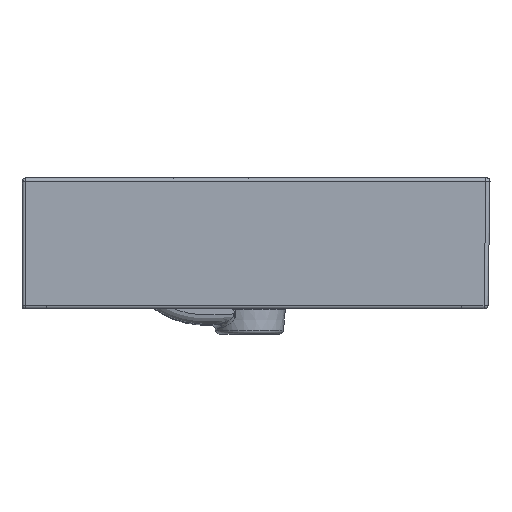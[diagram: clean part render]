
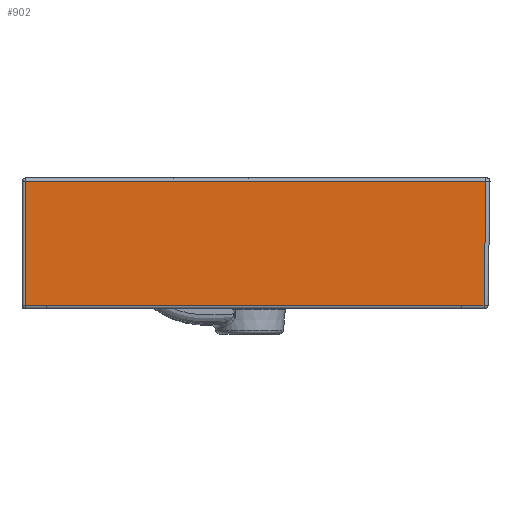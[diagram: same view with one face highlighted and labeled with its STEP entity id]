
A CAD part, left-side view. The second image highlights one B-rep face of the part: STEP entity #902.
In plain terms, the highlighted planar face has unit normal (-1, 0, -0.008).
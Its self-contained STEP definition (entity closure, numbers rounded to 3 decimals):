
#344=PLANE('',#6380);
#902=ADVANCED_FACE('',(#1418),#344,.F.);
#1418=FACE_OUTER_BOUND('',#1826,.T.);
#1826=EDGE_LOOP('',(#3108,#3109,#3110,#3111,#3112,#3113));
#3108=ORIENTED_EDGE('',*,*,#5322,.T.);
#3109=ORIENTED_EDGE('',*,*,#5323,.T.);
#3110=ORIENTED_EDGE('',*,*,#5324,.T.);
#3111=ORIENTED_EDGE('',*,*,#5325,.T.);
#3112=ORIENTED_EDGE('',*,*,#5326,.T.);
#3113=ORIENTED_EDGE('',*,*,#4880,.T.);
#4333=VERTEX_POINT('',#8331);
#4334=VERTEX_POINT('',#8333);
#4675=VERTEX_POINT('',#26658);
#4676=VERTEX_POINT('',#26660);
#4677=VERTEX_POINT('',#26662);
#4678=VERTEX_POINT('',#26664);
#4880=EDGE_CURVE('',#4334,#4333,#5791,.T.);
#5322=EDGE_CURVE('',#4333,#4675,#5945,.T.);
#5323=EDGE_CURVE('',#4675,#4676,#5946,.T.);
#5324=EDGE_CURVE('',#4676,#4677,#5947,.T.);
#5325=EDGE_CURVE('',#4677,#4678,#5948,.T.);
#5326=EDGE_CURVE('',#4678,#4334,#5949,.T.);
#5791=LINE('',#8332,#6002);
#5945=LINE('',#26657,#6158);
#5946=LINE('',#26659,#6159);
#5947=LINE('',#26661,#6160);
#5948=LINE('',#26663,#6161);
#5949=LINE('',#26665,#6162);
#6002=VECTOR('',#6803,1.);
#6158=VECTOR('',#7277,1.);
#6159=VECTOR('',#7278,1.);
#6160=VECTOR('',#7279,1.);
#6161=VECTOR('',#7280,1.);
#6162=VECTOR('',#7281,1.);
#6380=AXIS2_PLACEMENT_3D('',#26666,#7282,#7283);
#6803=DIRECTION('',(0.,1.,0.));
#7277=DIRECTION('',(0.008,0.,-1.));
#7278=DIRECTION('',(0.,-1.,0.));
#7279=DIRECTION('',(0.,-1.,0.));
#7280=DIRECTION('',(0.,-1.,0.));
#7281=DIRECTION('',(-0.008,-0.016,1.));
#7282=DIRECTION('',(1.,0.,0.008));
#7283=DIRECTION('',(0.,-1.,0.));
#8331=CARTESIAN_POINT('',(-399.92,-3.,-3.024));
#8332=CARTESIAN_POINT('',(-399.92,-230.416,-3.024));
#8333=CARTESIAN_POINT('',(-399.92,-460.832,-3.024));
#26657=CARTESIAN_POINT('',(-399.919,-3.,-3.079));
#26658=CARTESIAN_POINT('',(-398.943,-3.,-127.024));
#26659=CARTESIAN_POINT('',(-398.943,-24.,-127.024));
#26660=CARTESIAN_POINT('',(-398.943,-24.,-127.024));
#26661=CARTESIAN_POINT('',(-398.943,-230.416,-127.024));
#26662=CARTESIAN_POINT('',(-398.943,-436.399,-127.024));
#26663=CARTESIAN_POINT('',(-398.943,-230.416,-127.024));
#26664=CARTESIAN_POINT('',(-398.943,-458.878,-127.024));
#26665=CARTESIAN_POINT('',(-399.891,-460.774,-6.709));
#26666=CARTESIAN_POINT('',(-399.919,-230.416,-3.079));
